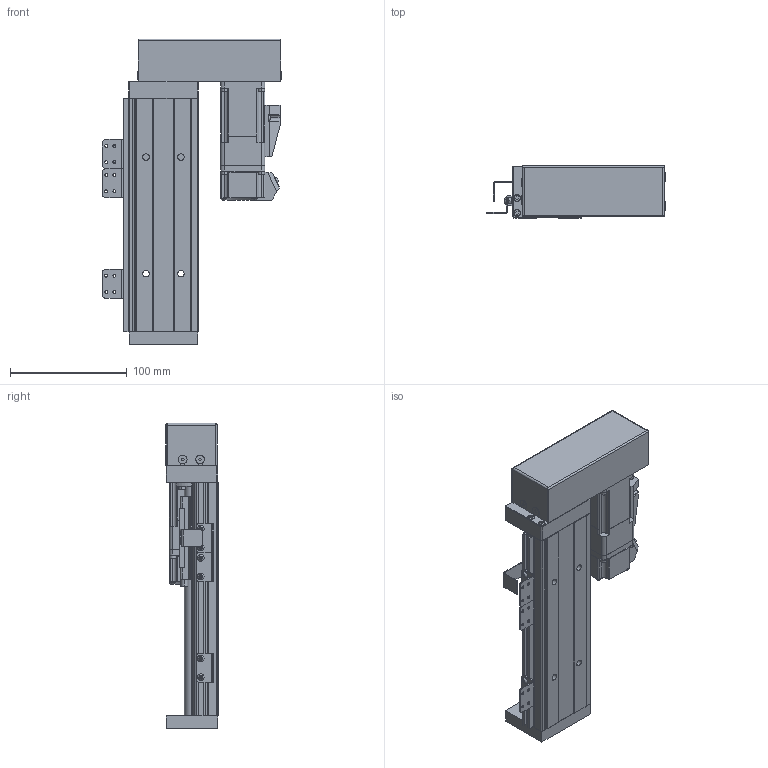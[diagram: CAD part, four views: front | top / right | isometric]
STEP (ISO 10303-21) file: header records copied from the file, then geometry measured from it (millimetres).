
FILE_DESCRIPTION (( 'STEP AP203' ), '1' );
FILE_NAME ('KH60D10C-200A1-H2LS0.STEP', '2022-06-07T10:53:28', ( '' ), ( '' ), 'SwSTEP 2.0', 'SolidWorks 2016', '' );
FILE_SCHEMA (( 'CONFIG_CONTROL_DESIGN' ));
Length unit declared in the file: millimetre
Products named in the file (59): KK60-04-07G; KH60-500; 綴釱; 鞠褒蹟譫M3; 晦埴芛M3X6蹟隊; 囀鞠褒す埴芛蹟隊M3℅5; 内六角圆柱头螺钉M3×10; KH60-02-0000; KK60-08-01; KH60D10C-200A1-H2LS0; 侂狟萇儂P10B; KK60-01-02-XXXX; KK60-02-03; 内六角圆柱头螺钉M3×18; KK60-01-02-XXXX_KK60-01-02-150; 216々湍; 錨璃2; KK60-02-02; KH86-08-(SX674); B-KK60-A1-F0C; KK60-02-01-H0; KK60-02-04; KK60-02-01-H0_KK60-02-01-H0&H1
Assembly tree (33 placements, depth 3):
  KK60-04-07G
  KH60-500
  鞠褒蹟譫M3
  晦埴芛M3X6蹟隊
  囀鞠褒す埴芛蹟隊M3℅5
Bounding box: 153.7 x 45 x 262 mm (x, y, z)
Volume: 496907.6 mm3; surface area: 176466.2 mm2
Topology: 39 solids, 39 shells, 2137 faces, 5554 edges, 3567 vertices
Faces by surface type: plane 1020, cylinder 522, bspline 280, cone 241, torus 62, sphere 12
Entity records: 59519 total; most frequent: CARTESIAN_POINT 14255, ORIENTED_EDGE 8738, DIRECTION 7474, EDGE_CURVE 4369, VERTEX_POINT 2870, LINE 2728, VECTOR 2728, AXIS2_PLACEMENT_3D 2373
